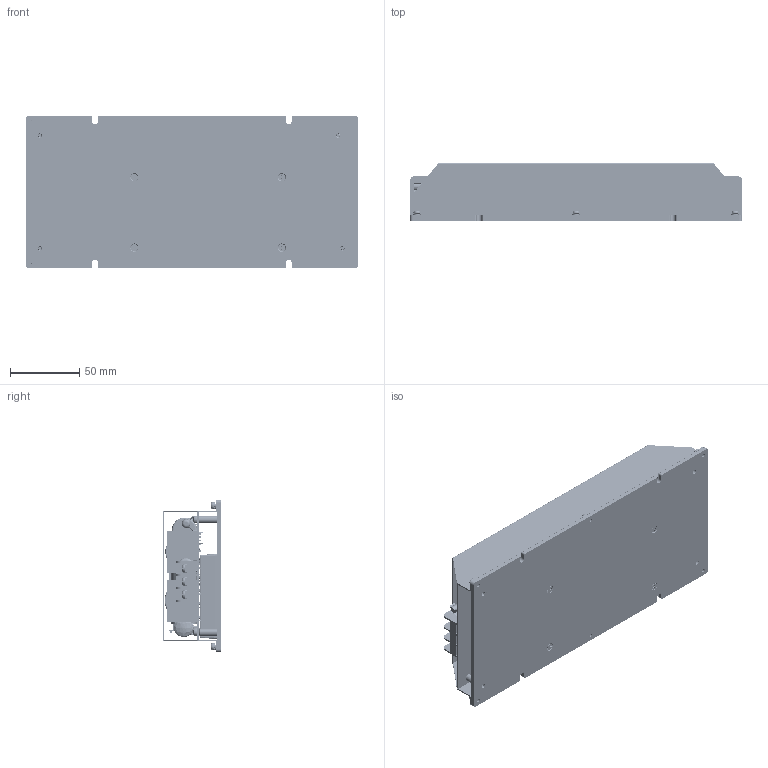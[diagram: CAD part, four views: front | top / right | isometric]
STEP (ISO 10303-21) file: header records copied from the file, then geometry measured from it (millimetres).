
FILE_DESCRIPTION (( 'STEP AP214' ), '1' );
FILE_NAME ('PDF700S CMFD-P.STEP', '2023-12-27T09:55:30', ( 'cincon' ), ( '' ), 'SwSTEP 2.0', 'SolidWorks 2020', '' );
FILE_SCHEMA (( 'AUTOMOTIVE_DESIGN' ));
Length unit declared in the file: millimetre
Products named in the file (1): PDF700S CMFD-P
Bounding box: 240.04 x 42 x 110 mm (x, y, z)
Volume: 362689.2 mm3; surface area: 243871.6 mm2
Topology: 73 solids, 92 shells, 5698 faces, 15289 edges, 9934 vertices
Faces by surface type: plane 2338, cylinder 1830, torus 685, bspline 543, cone 286, sphere 16
Entity records: 344795 total; most frequent: CARTESIAN_POINT 143224, ORIENTED_EDGE 30474, DIRECTION 27518, EDGE_CURVE 15237, AXIS2_PLACEMENT_3D 10239, VERTEX_POINT 9922, VECTOR 7040, LINE 7040
